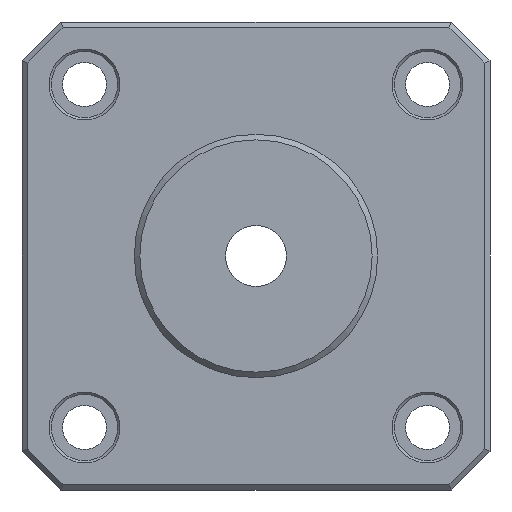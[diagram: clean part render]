
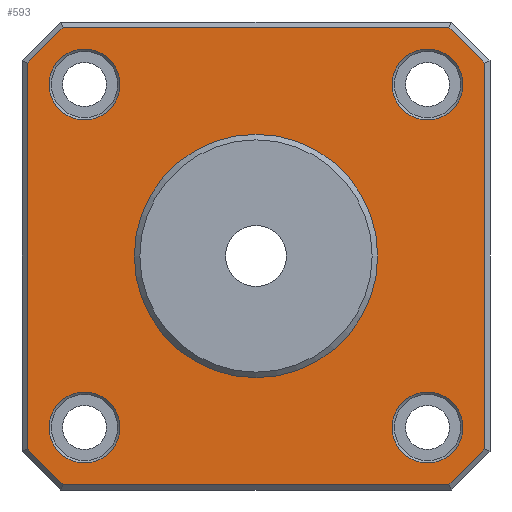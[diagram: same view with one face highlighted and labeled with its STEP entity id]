
A CAD part, front view. The second image highlights one B-rep face of the part: STEP entity #593.
In plain terms, the highlighted planar face has unit normal (0, -1, 0).
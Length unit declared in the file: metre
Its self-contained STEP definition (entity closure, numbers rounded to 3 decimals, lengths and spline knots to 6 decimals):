
#33=CIRCLE('',#649,0.011);
#36=CIRCLE('',#655,0.0032);
#38=CIRCLE('',#659,0.0032);
#40=CIRCLE('',#663,0.0032);
#42=CIRCLE('',#667,0.0032);
#132=ORIENTED_EDGE('',*,*,#228,.F.);
#133=ORIENTED_EDGE('',*,*,#224,.F.);
#134=ORIENTED_EDGE('',*,*,#221,.T.);
#135=ORIENTED_EDGE('',*,*,#226,.F.);
#136=ORIENTED_EDGE('',*,*,#230,.F.);
#137=ORIENTED_EDGE('',*,*,#238,.F.);
#138=ORIENTED_EDGE('',*,*,#239,.F.);
#139=ORIENTED_EDGE('',*,*,#240,.F.);
#140=ORIENTED_EDGE('',*,*,#241,.F.);
#141=ORIENTED_EDGE('',*,*,#242,.F.);
#142=ORIENTED_EDGE('',*,*,#243,.F.);
#143=ORIENTED_EDGE('',*,*,#244,.F.);
#144=ORIENTED_EDGE('',*,*,#245,.F.);
#221=EDGE_CURVE('',#286,#286,#33,.T.);
#224=EDGE_CURVE('',#289,#289,#36,.T.);
#226=EDGE_CURVE('',#291,#291,#38,.T.);
#228=EDGE_CURVE('',#293,#293,#40,.T.);
#230=EDGE_CURVE('',#295,#295,#42,.T.);
#238=EDGE_CURVE('',#302,#303,#330,.T.);
#239=EDGE_CURVE('',#304,#302,#331,.T.);
#240=EDGE_CURVE('',#305,#304,#332,.T.);
#241=EDGE_CURVE('',#306,#305,#333,.T.);
#242=EDGE_CURVE('',#307,#306,#334,.T.);
#243=EDGE_CURVE('',#308,#307,#335,.T.);
#244=EDGE_CURVE('',#309,#308,#336,.T.);
#245=EDGE_CURVE('',#303,#309,#337,.T.);
#286=VERTEX_POINT('',#938);
#289=VERTEX_POINT('',#947);
#291=VERTEX_POINT('',#953);
#293=VERTEX_POINT('',#959);
#295=VERTEX_POINT('',#965);
#302=VERTEX_POINT('',#985);
#303=VERTEX_POINT('',#986);
#304=VERTEX_POINT('',#988);
#305=VERTEX_POINT('',#990);
#306=VERTEX_POINT('',#992);
#307=VERTEX_POINT('',#994);
#308=VERTEX_POINT('',#996);
#309=VERTEX_POINT('',#998);
#330=LINE('',#984,#370);
#331=LINE('',#987,#371);
#332=LINE('',#989,#372);
#333=LINE('',#991,#373);
#334=LINE('',#993,#374);
#335=LINE('',#995,#375);
#336=LINE('',#997,#376);
#337=LINE('',#999,#377);
#370=VECTOR('',#821,1.);
#371=VECTOR('',#822,1.);
#372=VECTOR('',#823,1.);
#373=VECTOR('',#824,1.);
#374=VECTOR('',#825,1.);
#375=VECTOR('',#826,1.);
#376=VECTOR('',#827,1.);
#377=VECTOR('',#828,1.);
#449=EDGE_LOOP('',(#132));
#450=EDGE_LOOP('',(#133));
#451=EDGE_LOOP('',(#134));
#452=EDGE_LOOP('',(#135));
#453=EDGE_LOOP('',(#136));
#454=EDGE_LOOP('',(#137,#138,#139,#140,#141,#142,#143,#144));
#523=FACE_BOUND('',#449,.T.);
#524=FACE_BOUND('',#450,.T.);
#525=FACE_BOUND('',#451,.T.);
#526=FACE_BOUND('',#452,.T.);
#527=FACE_BOUND('',#453,.T.);
#528=FACE_BOUND('',#454,.T.);
#552=PLANE('',#675);
#593=ADVANCED_FACE('',(#523,#524,#525,#526,#527,#528),#552,.F.);
#649=AXIS2_PLACEMENT_3D('',#937,#763,#764);
#655=AXIS2_PLACEMENT_3D('',#946,#775,#776);
#659=AXIS2_PLACEMENT_3D('',#952,#783,#784);
#663=AXIS2_PLACEMENT_3D('',#958,#791,#792);
#667=AXIS2_PLACEMENT_3D('',#964,#799,#800);
#675=AXIS2_PLACEMENT_3D('',#983,#819,#820);
#763=DIRECTION('',(0.,1.,0.));
#764=DIRECTION('',(1.,0.,0.));
#775=DIRECTION('',(0.,-1.,0.));
#776=DIRECTION('',(1.,0.,0.));
#783=DIRECTION('',(0.,-1.,0.));
#784=DIRECTION('',(1.,0.,0.));
#791=DIRECTION('',(0.,-1.,0.));
#792=DIRECTION('',(1.,0.,0.));
#799=DIRECTION('',(0.,-1.,0.));
#800=DIRECTION('',(1.,0.,0.));
#819=DIRECTION('',(0.,1.,0.));
#820=DIRECTION('',(1.,0.,0.));
#821=DIRECTION('',(0.,0.,-1.));
#822=DIRECTION('',(0.707,0.,-0.707));
#823=DIRECTION('',(1.,0.,0.));
#824=DIRECTION('',(0.707,0.,0.707));
#825=DIRECTION('',(0.,0.,1.));
#826=DIRECTION('',(-0.707,0.,0.707));
#827=DIRECTION('',(-1.,0.,0.));
#828=DIRECTION('',(-0.707,0.,-0.707));
#937=CARTESIAN_POINT('',(0.,-0.0135,0.));
#938=CARTESIAN_POINT('',(0.011,-0.0135,0.));
#946=CARTESIAN_POINT('',(-0.0155,-0.0135,0.0155));
#947=CARTESIAN_POINT('',(-0.0123,-0.0135,0.0155));
#952=CARTESIAN_POINT('',(0.0155,-0.0135,0.0155));
#953=CARTESIAN_POINT('',(0.0187,-0.0135,0.0155));
#958=CARTESIAN_POINT('',(0.0155,-0.0135,-0.0155));
#959=CARTESIAN_POINT('',(0.0187,-0.0135,-0.0155));
#964=CARTESIAN_POINT('',(-0.0155,-0.0135,-0.0155));
#965=CARTESIAN_POINT('',(-0.0123,-0.0135,-0.0155));
#983=CARTESIAN_POINT('',(0.,-0.0135,0.));
#984=CARTESIAN_POINT('',(0.02065,-0.0135,0.008825));
#985=CARTESIAN_POINT('',(0.02065,-0.0135,0.017443));
#986=CARTESIAN_POINT('',(0.02065,-0.0135,-0.017443));
#987=CARTESIAN_POINT('',(0.018171,-0.0135,0.019921));
#988=CARTESIAN_POINT('',(0.017443,-0.0135,0.02065));
#989=CARTESIAN_POINT('',(-0.008825,-0.0135,0.02065));
#990=CARTESIAN_POINT('',(-0.017443,-0.0135,0.02065));
#991=CARTESIAN_POINT('',(-0.019921,-0.0135,0.018171));
#992=CARTESIAN_POINT('',(-0.02065,-0.0135,0.017443));
#993=CARTESIAN_POINT('',(-0.02065,-0.0135,-0.008825));
#994=CARTESIAN_POINT('',(-0.02065,-0.0135,-0.017443));
#995=CARTESIAN_POINT('',(-0.018171,-0.0135,-0.019921));
#996=CARTESIAN_POINT('',(-0.017443,-0.0135,-0.02065));
#997=CARTESIAN_POINT('',(0.008825,-0.0135,-0.02065));
#998=CARTESIAN_POINT('',(0.017443,-0.0135,-0.02065));
#999=CARTESIAN_POINT('',(0.019921,-0.0135,-0.018171));
